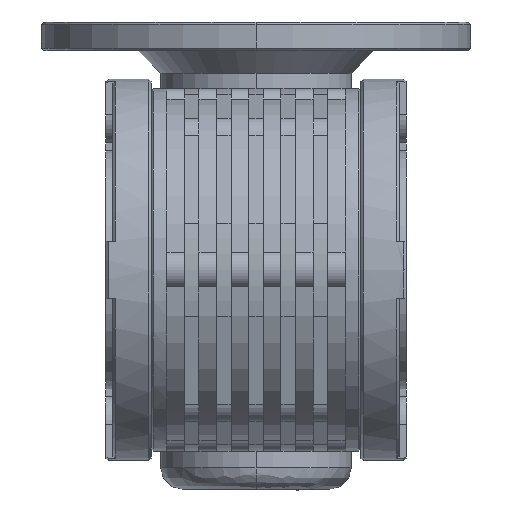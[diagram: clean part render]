
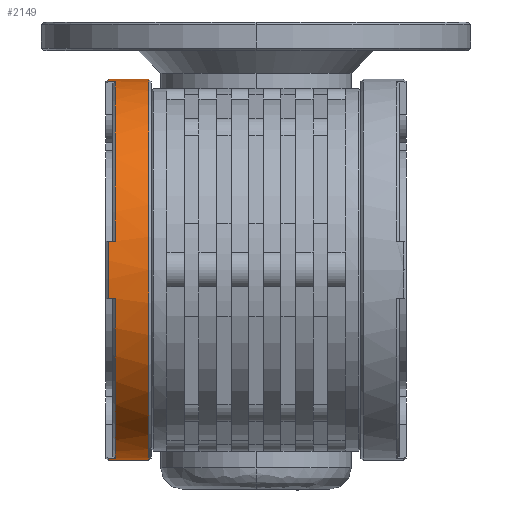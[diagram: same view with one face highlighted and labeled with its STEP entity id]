
A CAD part, front view. The second image highlights one B-rep face of the part: STEP entity #2149.
In plain terms, the highlighted cylindrical face has radius 40 mm (diameter 80 mm), a partial arc.
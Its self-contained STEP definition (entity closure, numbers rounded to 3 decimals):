
#239 = CIRCLE ( 'NONE', #26752, 40. ) ;
#241 = CARTESIAN_POINT ( 'NONE',  ( -82.075, 16.466, -42.547 ) ) ;
#594 = FACE_OUTER_BOUND ( 'NONE', #44826, .T. ) ;
#751 = DIRECTION ( 'NONE',  ( 0., 0., 1. ) ) ;
#1182 = DIRECTION ( 'NONE',  ( 1., 0., 0. ) ) ;
#2138 = DIRECTION ( 'NONE',  ( 1., 0., 0. ) ) ;
#2149 = ADVANCED_FACE ( 'NONE', ( #594 ), #30608, .T. ) ;
#2425 = VERTEX_POINT ( 'NONE', #39396 ) ;
#2616 = CIRCLE ( 'NONE', #18850, 40. ) ;
#3138 = CIRCLE ( 'NONE', #32219, 40. ) ;
#3317 = CARTESIAN_POINT ( 'NONE',  ( -82.575, 16.466, 36.548 ) ) ;
#3639 = DIRECTION ( 'NONE',  ( -1., 0., 0. ) ) ;
#3881 = VERTEX_POINT ( 'NONE', #52594 ) ;
#5042 = LINE ( 'NONE', #18577, #12235 ) ;
#8104 = VERTEX_POINT ( 'NONE', #21557 ) ;
#8581 = VECTOR ( 'NONE', #11342, 1000. ) ;
#8652 = LINE ( 'NONE', #9761, #49101 ) ;
#8999 = ORIENTED_EDGE ( 'NONE', *, *, #40817, .F. ) ;
#9291 = VERTEX_POINT ( 'NONE', #10543 ) ;
#9619 = VERTEX_POINT ( 'NONE', #37650 ) ;
#9761 = CARTESIAN_POINT ( 'NONE',  ( -82.575, -17.081, 3.001 ) ) ;
#9958 = CARTESIAN_POINT ( 'NONE',  ( -82.075, 22.466, -42.999 ) ) ;
#10029 = ORIENTED_EDGE ( 'NONE', *, *, #12183, .F. ) ;
#10361 = CARTESIAN_POINT ( 'NONE',  ( -82.075, 22.466, -2.999 ) ) ;
#10543 = CARTESIAN_POINT ( 'NONE',  ( -80.575, -17.081, 3.001 ) ) ;
#11017 = ORIENTED_EDGE ( 'NONE', *, *, #41806, .T. ) ;
#11342 = DIRECTION ( 'NONE',  ( -1., 0., 0. ) ) ;
#11470 = AXIS2_PLACEMENT_3D ( 'NONE', #35049, #51531, #22091 ) ;
#12183 = EDGE_CURVE ( 'NONE', #32771, #52888, #12427, .T. ) ;
#12235 = VECTOR ( 'NONE', #26968, 1000. ) ;
#12237 = ORIENTED_EDGE ( 'NONE', *, *, #51113, .T. ) ;
#12427 = LINE ( 'NONE', #26234, #39113 ) ;
#12520 = LINE ( 'NONE', #3317, #8581 ) ;
#12846 = ORIENTED_EDGE ( 'NONE', *, *, #43968, .T. ) ;
#14511 = DIRECTION ( 'NONE',  ( 1., 0., 0. ) ) ;
#15913 = EDGE_CURVE ( 'NONE', #32469, #9619, #27040, .T. ) ;
#16786 = DIRECTION ( 'NONE',  ( -1., 0., 0. ) ) ;
#17049 = VERTEX_POINT ( 'NONE', #31731 ) ;
#17462 = CARTESIAN_POINT ( 'NONE',  ( -80.575, 16.466, -42.547 ) ) ;
#18534 = DIRECTION ( 'NONE',  ( 1., 0., 0. ) ) ;
#18577 = CARTESIAN_POINT ( 'NONE',  ( -73.075, 22.466, 37.001 ) ) ;
#18653 = CARTESIAN_POINT ( 'NONE',  ( -82.075, 22.466, -2.999 ) ) ;
#18850 = AXIS2_PLACEMENT_3D ( 'NONE', #10361, #18534, #30584 ) ;
#20005 = ORIENTED_EDGE ( 'NONE', *, *, #34819, .T. ) ;
#20281 = CARTESIAN_POINT ( 'NONE',  ( -73.575, 22.466, -42.999 ) ) ;
#20493 = DIRECTION ( 'NONE',  ( 1., 0., 0. ) ) ;
#21545 = AXIS2_PLACEMENT_3D ( 'NONE', #48996, #20493, #45154 ) ;
#21557 = CARTESIAN_POINT ( 'NONE',  ( -82.075, -17.081, 3.001 ) ) ;
#22091 = DIRECTION ( 'NONE',  ( 0., 0., 1. ) ) ;
#22409 = DIRECTION ( 'NONE',  ( -1., 0., 0. ) ) ;
#23708 = CARTESIAN_POINT ( 'NONE',  ( -73.075, 22.466, -2.999 ) ) ;
#25262 = VERTEX_POINT ( 'NONE', #241 ) ;
#25781 = CARTESIAN_POINT ( 'NONE',  ( -80.575, -17.081, -8.999 ) ) ;
#26234 = CARTESIAN_POINT ( 'NONE',  ( -73.075, 22.466, -42.999 ) ) ;
#26308 = ORIENTED_EDGE ( 'NONE', *, *, #32415, .F. ) ;
#26752 = AXIS2_PLACEMENT_3D ( 'NONE', #46536, #34277, #751 ) ;
#26901 = CARTESIAN_POINT ( 'NONE',  ( -80.575, 22.466, -2.999 ) ) ;
#26968 = DIRECTION ( 'NONE',  ( -1., 0., 0. ) ) ;
#27040 = LINE ( 'NONE', #32269, #38082 ) ;
#27337 = ORIENTED_EDGE ( 'NONE', *, *, #40358, .T. ) ;
#29291 = ORIENTED_EDGE ( 'NONE', *, *, #49340, .T. ) ;
#30584 = DIRECTION ( 'NONE',  ( 0., 0., 1. ) ) ;
#30608 = CYLINDRICAL_SURFACE ( 'NONE', #30864, 40. ) ;
#30864 = AXIS2_PLACEMENT_3D ( 'NONE', #23708, #16786, #54072 ) ;
#31115 = DIRECTION ( 'NONE',  ( 0., 0., 1. ) ) ;
#31731 = CARTESIAN_POINT ( 'NONE',  ( -80.575, 16.466, 36.548 ) ) ;
#31989 = VERTEX_POINT ( 'NONE', #17462 ) ;
#32219 = AXIS2_PLACEMENT_3D ( 'NONE', #18653, #14511, #48236 ) ;
#32269 = CARTESIAN_POINT ( 'NONE',  ( -82.575, -17.081, -8.999 ) ) ;
#32415 = EDGE_CURVE ( 'NONE', #8104, #9291, #8652, .T. ) ;
#32469 = VERTEX_POINT ( 'NONE', #25781 ) ;
#32771 = VERTEX_POINT ( 'NONE', #20281 ) ;
#32835 = CIRCLE ( 'NONE', #44189, 40. ) ;
#33048 = ORIENTED_EDGE ( 'NONE', *, *, #44838, .F. ) ;
#34130 = ORIENTED_EDGE ( 'NONE', *, *, #15913, .F. ) ;
#34277 = DIRECTION ( 'NONE',  ( 1., 0., 0. ) ) ;
#34819 = EDGE_CURVE ( 'NONE', #2425, #3881, #5042, .T. ) ;
#35049 = CARTESIAN_POINT ( 'NONE',  ( -80.575, 22.466, -2.999 ) ) ;
#37147 = EDGE_CURVE ( 'NONE', #25262, #31989, #43898, .T. ) ;
#37650 = CARTESIAN_POINT ( 'NONE',  ( -82.075, -17.081, -8.999 ) ) ;
#38082 = VECTOR ( 'NONE', #3639, 1000. ) ;
#39113 = VECTOR ( 'NONE', #22409, 1000. ) ;
#39396 = CARTESIAN_POINT ( 'NONE',  ( -73.575, 22.466, 37.001 ) ) ;
#39878 = VERTEX_POINT ( 'NONE', #45220 ) ;
#40358 = EDGE_CURVE ( 'NONE', #8104, #9619, #41339, .T. ) ;
#40817 = EDGE_CURVE ( 'NONE', #17049, #39878, #12520, .T. ) ;
#41339 = CIRCLE ( 'NONE', #21545, 40. ) ;
#41616 = CIRCLE ( 'NONE', #11470, 40. ) ;
#41806 = EDGE_CURVE ( 'NONE', #3881, #39878, #2616, .T. ) ;
#43898 = LINE ( 'NONE', #50298, #52411 ) ;
#43968 = EDGE_CURVE ( 'NONE', #32469, #31989, #32835, .T. ) ;
#44189 = AXIS2_PLACEMENT_3D ( 'NONE', #26901, #2138, #31115 ) ;
#44826 = EDGE_LOOP ( 'NONE', ( #10029, #33048, #20005, #11017, #8999, #29291, #26308, #27337, #34130, #12846, #50187, #12237 ) ) ;
#44838 = EDGE_CURVE ( 'NONE', #2425, #32771, #239, .T. ) ;
#45154 = DIRECTION ( 'NONE',  ( 0., 0., 1. ) ) ;
#45220 = CARTESIAN_POINT ( 'NONE',  ( -82.075, 16.466, 36.548 ) ) ;
#46434 = DIRECTION ( 'NONE',  ( 1., 0., 0. ) ) ;
#46536 = CARTESIAN_POINT ( 'NONE',  ( -73.575, 22.466, -2.999 ) ) ;
#48236 = DIRECTION ( 'NONE',  ( 0., 0., 1. ) ) ;
#48996 = CARTESIAN_POINT ( 'NONE',  ( -82.075, 22.466, -2.999 ) ) ;
#49101 = VECTOR ( 'NONE', #1182, 1000. ) ;
#49340 = EDGE_CURVE ( 'NONE', #17049, #9291, #41616, .T. ) ;
#50187 = ORIENTED_EDGE ( 'NONE', *, *, #37147, .F. ) ;
#50298 = CARTESIAN_POINT ( 'NONE',  ( -82.575, 16.466, -42.547 ) ) ;
#51113 = EDGE_CURVE ( 'NONE', #25262, #52888, #3138, .T. ) ;
#51531 = DIRECTION ( 'NONE',  ( 1., 0., 0. ) ) ;
#52411 = VECTOR ( 'NONE', #46434, 1000. ) ;
#52594 = CARTESIAN_POINT ( 'NONE',  ( -82.075, 22.466, 37.001 ) ) ;
#52888 = VERTEX_POINT ( 'NONE', #9958 ) ;
#54072 = DIRECTION ( 'NONE',  ( 0., 0., 1. ) ) ;
